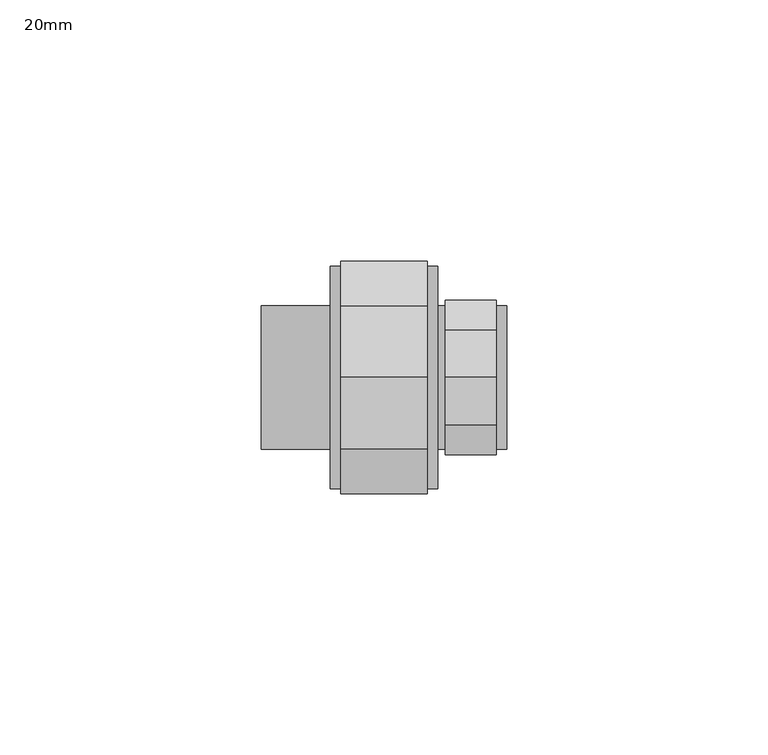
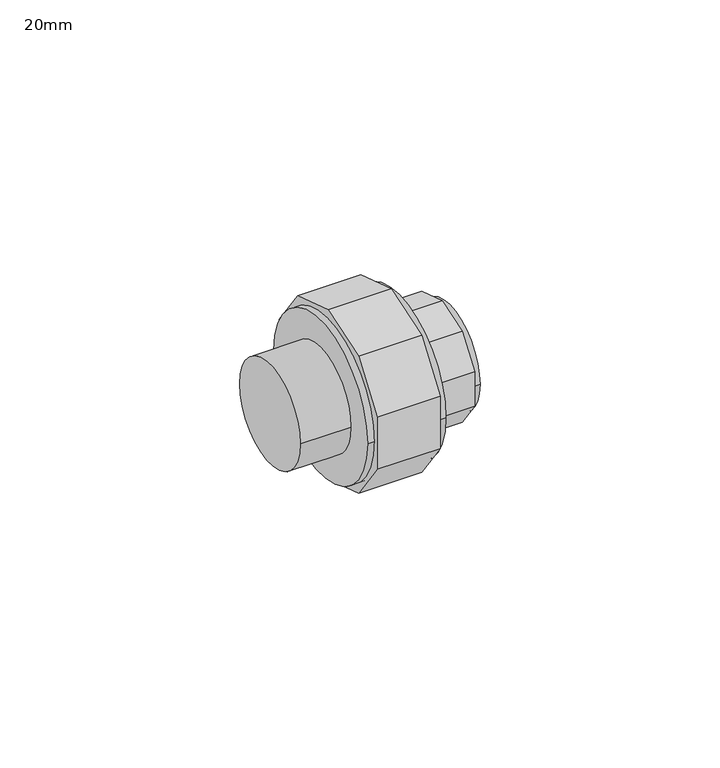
"""IFC4 building model written with IfcOpenShell, lengths in millimetres: pipe fitting geometry, PipeFitting_HTA_CPVC_3PieceUnions_CPVC : 20mm."""

from ifc_helpers import new_model, si_unit, point, frame, origin, origin_2d, place, context, project, spatial, polyline, circle_curve, trimmed, segment, composite_curve, outline, extrude, source, transform, mapped, element, save


def pipe_fitting_20mm_e1226f67(model_context):
    return source(origin(), model_context, "Body", "SweptSolid", [
        extrude(outline(polyline([(9.1160013, 12.5470994), (14.75, 4.7925655), (14.75, -4.7925655), (9.1160013, -12.5470994), (0.0, -15.5090678), (-9.1160013, -12.5470994), (-14.75, -4.7925655), (-14.75, 4.7925655), (-9.1160013, 12.5470994), (0.0, 15.5090678), (9.1160013, 12.5470994)])), frame((11.75, 0.0, 0.0), z_axis=(1.0, 0.0, 0.0), x_axis=(0.0, 1.0, 0.0)), (0.0, 0.0, 1.0), 9.75),
        extrude(outline(composite_curve([segment(trimmed(circle_curve(origin_2d(), 13.75), [point((-13.75, 0.0))], [point((13.75, 0.0))], False, "CARTESIAN"), True, "CONTINUOUS"), segment(trimmed(circle_curve(origin_2d(), 13.75), [point((13.75, 0.0))], [point((-13.75, 0.0))], False, "CARTESIAN"), True, "CONTINUOUS")], self_intersect=False)), frame((7.0, 0.0, 0.0), z_axis=(1.0, 0.0, 0.0), x_axis=(0.0, 1.0, 0.0)), (0.0, 0.0, 1.0), 16.5),
        extrude(outline(composite_curve([segment(trimmed(circle_curve(origin_2d(), 13.75), [point((-13.75, 0.0))], [point((13.75, 0.0))], False, "CARTESIAN"), True, "CONTINUOUS"), segment(trimmed(circle_curve(origin_2d(), 13.75), [point((13.75, 0.0))], [point((-13.75, 0.0))], False, "CARTESIAN"), True, "CONTINUOUS")], self_intersect=False)), frame((-23.5, 0.0, 0.0), z_axis=(1.0, 0.0, 0.0), x_axis=(0.0, 1.0, 0.0)), (0.0, 0.0, 1.0), 13.25),
        extrude(outline(polyline([(13.7512562, 18.9269805), (22.25, 7.2294632), (22.25, -7.2294632), (13.7512562, -18.9269805), (0.0, -23.3950345), (-13.7512562, -18.9269805), (-22.25, -7.2294632), (-22.25, 7.2294632), (-13.7512562, 18.9269805), (0.0, 23.3950345), (13.7512562, 18.9269805)])), frame((-8.25, 0.0, 0.0), z_axis=(1.0, 0.0, 0.0), x_axis=(0.0, 1.0, 0.0)), (0.0, 0.0, 1.0), 16.5),
        extrude(outline(composite_curve([segment(trimmed(circle_curve(origin_2d(), 21.25), [point((-21.25, 0.0))], [point((21.25, 0.0))], False, "CARTESIAN"), True, "CONTINUOUS"), segment(trimmed(circle_curve(origin_2d(), 21.25), [point((21.25, 0.0))], [point((-21.25, 0.0))], False, "CARTESIAN"), True, "CONTINUOUS")], self_intersect=False)), frame((-10.25, 0.0, 0.0), z_axis=(1.0, 0.0, 0.0), x_axis=(0.0, 1.0, 0.0)), (0.0, 0.0, 1.0), 20.5),
    ])


if __name__ == "__main__":
    model = new_model("IFC4")
    model_context = context("Model", 3, world=origin())
    ifc_project = project(units=[si_unit("LENGTHUNIT", "METRE", prefix="MILLI")], contexts=[model_context])
    site = spatial("IfcSite", under=ifc_project)
    building = spatial("IfcBuilding", under=site)
    placement = place(None, origin())
    pipe_fitting_20mm_shape = pipe_fitting_20mm_e1226f67(model_context)
    element("IfcPipeFitting", 1, ObjectType="PipeFitting_HTA_CPVC_3PieceUnions_CPVC : 20mm", at=placement, inside=building, context=model_context, shape_type="MappedRepresentation", body=[
        mapped(pipe_fitting_20mm_shape, transform((0.0, 0.0, 0.0), x_axis=(1.0, 0.0, 0.0), y_axis=(0.0, 1.0, 0.0), z_axis=(0.0, 0.0, 1.0))),
    ])
    save(model, "model.ifc")
